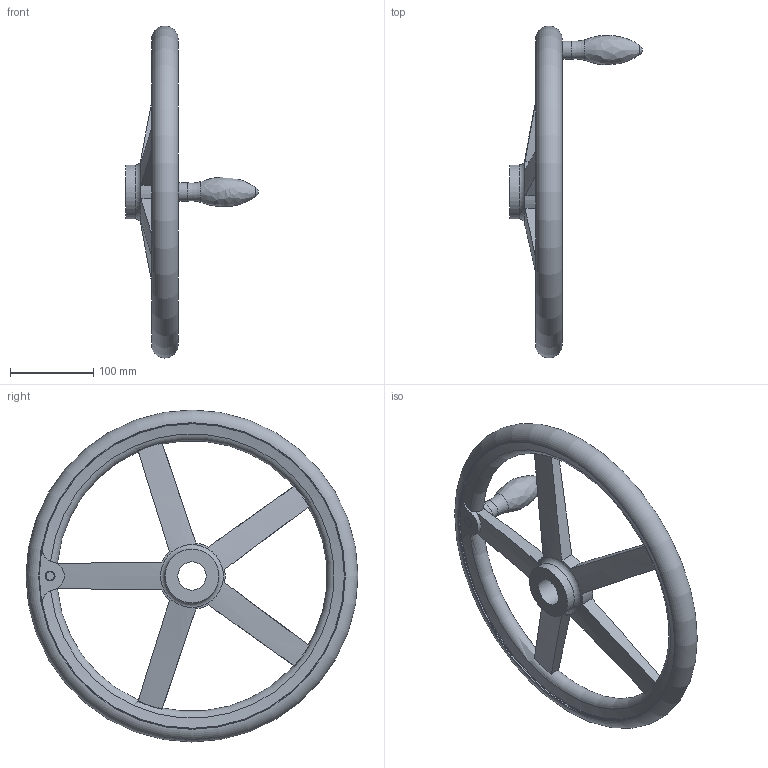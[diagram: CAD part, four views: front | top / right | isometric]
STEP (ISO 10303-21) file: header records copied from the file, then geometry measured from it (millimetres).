
FILE_DESCRIPTION( ( 'STEP AP203' ), '1' );
FILE_NAME( 'C:/Temp/Ganter_Step_05_03_2020/data/1_3/din_950/din_950_b/din_950_b_f/Handwheel DIN 950-AL-400-B34-F.stp', '2020-03-05T10:30:25', ( 'License CC BY-ND 4.0' ), ( 'CADENAS' ), ' ', 'PARTsolutions', ' ' );
FILE_SCHEMA( ( 'CONFIG_CONTROL_DESIGN' ) );
Length unit declared in the file: millimetre
Products named in the file (1): _Handwheel DIN 950-AL-400-B34-F
Bounding box: 159.5 x 399.98 x 399.98 mm (x, y, z)
Volume: 1425167 mm3; surface area: 209509.8 mm2
Topology: 1 solids, 1 shells, 59 faces, 173 edges, 111 vertices
Faces by surface type: torus 19, cylinder 18, plane 15, cone 5, bspline 1, sphere 1
Full cylindrical faces by diameter (mm): 12 x1, 21.8 x1, 34 x1, 65 x2, 368 x2
Entity records: 2437 total; most frequent: CARTESIAN_POINT 1005, ORIENTED_EDGE 294, DIRECTION 258, EDGE_CURVE 147, AXIS2_PLACEMENT_3D 120, VERTEX_POINT 107, EDGE_LOOP 86, FACE_OUTER_BOUND 75
